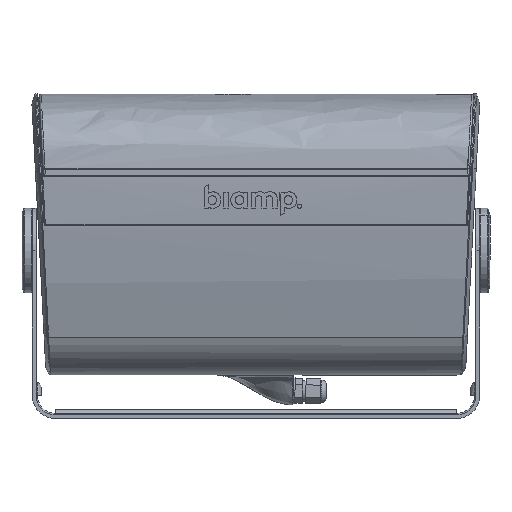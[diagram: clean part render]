
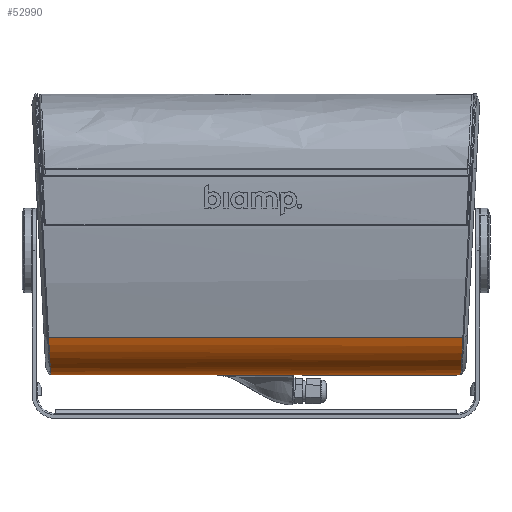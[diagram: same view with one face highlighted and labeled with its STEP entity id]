
A CAD part, left-side view. The second image highlights one B-rep face of the part: STEP entity #52990.
In plain terms, the highlighted cylindrical face has radius 42.87 mm (diameter 85.74 mm), a partial arc.
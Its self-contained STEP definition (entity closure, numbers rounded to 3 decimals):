
#1323 = CARTESIAN_POINT ( 'NONE',  ( -79.699, 160.943, -201.816 ) ) ;
#1656 = CARTESIAN_POINT ( 'NONE',  ( -72.299, 160.534, -209.691 ) ) ;
#1980 = CARTESIAN_POINT ( 'NONE',  ( -79.653, 160.94, -201.879 ) ) ;
#2307 = CARTESIAN_POINT ( 'NONE',  ( -82.472, 161.168, -197.502 ) ) ;
#2745 = CYLINDRICAL_SURFACE ( 'NONE', #14533, 42.87 ) ;
#3030 = VERTEX_POINT ( 'NONE', #34825 ) ;
#3268 = CARTESIAN_POINT ( 'NONE',  ( -56.14, 160.101, -218.083 ) ) ;
#5946 = CARTESIAN_POINT ( 'NONE',  ( -78.25, 160.84, -203.8 ) ) ;
#6628 = CARTESIAN_POINT ( 'NONE',  ( -70.194, 160.45, -211.317 ) ) ;
#6798 = CARTESIAN_POINT ( 'NONE',  ( -53.918, -160.073, -218.615 ) ) ;
#6956 = CARTESIAN_POINT ( 'NONE',  ( -84.029, 161.322, -194.53 ) ) ;
#7951 = CARTESIAN_POINT ( 'NONE',  ( -45.015, -160.031, -219.49 ) ) ;
#8269 = CARTESIAN_POINT ( 'NONE',  ( -63.396, 160.241, -215.366 ) ) ;
#9395 = VERTEX_POINT ( 'NONE', #22747 ) ;
#9525 = CARTESIAN_POINT ( 'NONE',  ( -84.176, -161.339, -194.206 ) ) ;
#10175 = DIRECTION ( 'NONE',  ( 0., -1., 0. ) ) ;
#10821 = CARTESIAN_POINT ( 'NONE',  ( -49.494, -160.038, -219.314 ) ) ;
#10978 = CARTESIAN_POINT ( 'NONE',  ( -79.64, 160.939, -201.897 ) ) ;
#11308 = CARTESIAN_POINT ( 'NONE',  ( -70.554, 160.463, -211.053 ) ) ;
#11481 = CARTESIAN_POINT ( 'NONE',  ( -78.316, -160.845, -203.71 ) ) ;
#11816 = CARTESIAN_POINT ( 'NONE',  ( -62.439, -160.215, -215.853 ) ) ;
#11966 = VECTOR ( 'NONE', #63691, 1000. ) ;
#12297 = CARTESIAN_POINT ( 'NONE',  ( -80.8, 161.025, -200.232 ) ) ;
#13283 = CARTESIAN_POINT ( 'NONE',  ( -60.348, 160.174, -216.658 ) ) ;
#13405 = DIRECTION ( 'NONE',  ( 0., 1., 0. ) ) ;
#13616 = CARTESIAN_POINT ( 'NONE',  ( -58.741, 160.144, -217.234 ) ) ;
#13943 = CARTESIAN_POINT ( 'NONE',  ( -59.578, 160.159, -216.942 ) ) ;
#14533 = AXIS2_PLACEMENT_3D ( 'NONE', #17437, #13405, #27762 ) ;
#14536 = CARTESIAN_POINT ( 'NONE',  ( -85.041, -161.447, -192.135 ) ) ;
#16500 = CARTESIAN_POINT ( 'NONE',  ( -71.973, -160.516, -210.028 ) ) ;
#16660 = CARTESIAN_POINT ( 'NONE',  ( -70.233, 160.451, -211.289 ) ) ;
#16991 = CARTESIAN_POINT ( 'NONE',  ( -80.149, 160.976, -201.188 ) ) ;
#17159 = CARTESIAN_POINT ( 'NONE',  ( -82.133, -161.132, -198.186 ) ) ;
#17319 = CARTESIAN_POINT ( 'NONE',  ( -79.764, 160.948, -201.727 ) ) ;
#17437 = CARTESIAN_POINT ( 'NONE',  ( -45.015, -175., -176.62 ) ) ;
#17641 = CARTESIAN_POINT ( 'NONE',  ( -80.367, 160.992, -200.872 ) ) ;
#21318 = CARTESIAN_POINT ( 'NONE',  ( -85.74, 161.557, -190.011 ) ) ;
#21498 = CARTESIAN_POINT ( 'NONE',  ( -80.955, -161.032, -200.096 ) ) ;
#22747 = CARTESIAN_POINT ( 'NONE',  ( -45.015, -160.031, -219.49 ) ) ;
#23825 = LINE ( 'NONE', #43457, #11966 ) ;
#23946 = CARTESIAN_POINT ( 'NONE',  ( -68.323, 160.38, -212.673 ) ) ;
#24271 = CARTESIAN_POINT ( 'NONE',  ( -53.94, 160.074, -218.611 ) ) ;
#24857 = LINE ( 'NONE', #45132, #30572 ) ;
#25899 = VERTEX_POINT ( 'NONE', #36766 ) ;
#27313 = CARTESIAN_POINT ( 'NONE',  ( -81.928, 161.118, -198.447 ) ) ;
#27762 = DIRECTION ( 'NONE',  ( 0., 0., 1. ) ) ;
#28307 = CARTESIAN_POINT ( 'NONE',  ( -59.192, 160.152, -217.079 ) ) ;
#28407 = CARTESIAN_POINT ( 'NONE',  ( -47.254, -160.03, -219.49 ) ) ;
#28959 = CARTESIAN_POINT ( 'NONE',  ( -58.354, 160.138, -217.362 ) ) ;
#30572 = VECTOR ( 'NONE', #10175, 1000. ) ;
#31648 = CARTESIAN_POINT ( 'NONE',  ( -70.367, 160.456, -211.191 ) ) ;
#31983 = CARTESIAN_POINT ( 'NONE',  ( -70.206, 160.45, -211.308 ) ) ;
#32957 = CARTESIAN_POINT ( 'NONE',  ( -45.015, 160.031, -219.49 ) ) ;
#33379 = CARTESIAN_POINT ( 'NONE',  ( -68.347, -160.38, -212.654 ) ) ;
#34179 = VERTEX_POINT ( 'NONE', #48974 ) ;
#34825 = CARTESIAN_POINT ( 'NONE',  ( -85.74, -161.557, -190.011 ) ) ;
#35761 = EDGE_CURVE ( 'NONE', #34179, #3030, #23825, .T. ) ;
#36766 = CARTESIAN_POINT ( 'NONE',  ( -45.015, 160.031, -219.49 ) ) ;
#37442 = CARTESIAN_POINT ( 'NONE',  ( -76.855, -160.756, -205.414 ) ) ;
#37598 = CARTESIAN_POINT ( 'NONE',  ( -79.667, 160.941, -201.86 ) ) ;
#37928 = CARTESIAN_POINT ( 'NONE',  ( -58.419, 160.139, -217.341 ) ) ;
#41334 = ORIENTED_EDGE ( 'NONE', *, *, #44592, .T. ) ;
#41360 = ORIENTED_EDGE ( 'NONE', *, *, #35761, .F. ) ;
#41608 = CARTESIAN_POINT ( 'NONE',  ( -73.546, 160.589, -208.636 ) ) ;
#41947 = CARTESIAN_POINT ( 'NONE',  ( -76.743, 160.75, -205.536 ) ) ;
#41963 = ORIENTED_EDGE ( 'NONE', *, *, #55940, .T. ) ;
#43047 = FACE_OUTER_BOUND ( 'NONE', #60071, .T. ) ;
#43457 = CARTESIAN_POINT ( 'NONE',  ( -85.74, -175., -190.011 ) ) ;
#43912 = CARTESIAN_POINT ( 'NONE',  ( -60.86, 160.184, -216.458 ) ) ;
#44227 = CARTESIAN_POINT ( 'NONE',  ( -62.387, 160.217, -215.828 ) ) ;
#44592 = EDGE_CURVE ( 'NONE', #34179, #25899, #44942, .T. ) ;
#44942 = B_SPLINE_CURVE_WITH_KNOTS ( 'NONE', 3,
 ( #21318, #51554, #6956, #2307, #27313, #51892, #12297, #17641, #16991, #56560, #17319, #1323, #37598, #1980, #52885, #10978, #5946, #41947, #46584, #41608, #1656, #61873, #57544, #56877, #11308, #31648, #52218, #16660, #31983, #6628, #23946, #63819, #8269, #44227, #43912, #13283, #13943, #28307, #13616, #58860, #37928, #28959, #54523, #3268, #24271, #64466, #54194, #32957 ),
 .UNSPECIFIED., .F., .F.,
 ( 4, 2, 2, 2, 1, 1, 1, 1, 1, 2, 2, 2, 2, 2, 1, 1, 1, 1, 2, 2, 2, 2, 2, 1, 1, 1, 2, 2, 2, 4 ),
 ( 0., 0.125, 0.187, 0.219, 0.234, 0.242, 0.246, 0.248, 0.249, 0.25, 0.25, 0.375, 0.437, 0.469, 0.484, 0.492, 0.496, 0.498, 0.499, 0.5, 0.625, 0.687, 0.719, 0.734, 0.742, 0.746, 0.748, 0.75, 0.875, 1. ),
 .UNSPECIFIED. ) ;
#45132 = CARTESIAN_POINT ( 'NONE',  ( -45.015, 163.5, -219.49 ) ) ;
#45660 = EDGE_CURVE ( 'NONE', #3030, #9395, #54412, .T. ) ;
#46584 = CARTESIAN_POINT ( 'NONE',  ( -74.36, 160.627, -207.892 ) ) ;
#47098 = CARTESIAN_POINT ( 'NONE',  ( -73.683, -160.592, -208.573 ) ) ;
#48974 = CARTESIAN_POINT ( 'NONE',  ( -85.74, 161.557, -190.011 ) ) ;
#51554 = CARTESIAN_POINT ( 'NONE',  ( -84.967, 161.435, -192.36 ) ) ;
#51731 = CARTESIAN_POINT ( 'NONE',  ( -66.431, -160.319, -213.825 ) ) ;
#51892 = CARTESIAN_POINT ( 'NONE',  ( -81.085, 161.048, -199.795 ) ) ;
#52218 = CARTESIAN_POINT ( 'NONE',  ( -70.273, 160.453, -211.259 ) ) ;
#52406 = CARTESIAN_POINT ( 'NONE',  ( -60.363, -160.17, -216.711 ) ) ;
#52885 = CARTESIAN_POINT ( 'NONE',  ( -79.644, 160.939, -201.892 ) ) ;
#52990 = ADVANCED_FACE ( 'NONE', ( #43047 ), #2745, .T. ) ;
#54194 = CARTESIAN_POINT ( 'NONE',  ( -47.253, 160.03, -219.49 ) ) ;
#54412 = B_SPLINE_CURVE_WITH_KNOTS ( 'NONE', 3,
 ( #60081, #14536, #9525, #17159, #21498, #11481, #37442, #47098, #16500, #33379, #51731, #11816, #52406, #61381, #6798, #10821, #28407, #7951 ),
 .UNSPECIFIED., .F., .F.,
 ( 4, 2, 2, 2, 2, 2, 2, 2, 4 ),
 ( 0., 0.125, 0.25, 0.375, 0.5, 0.625, 0.75, 0.875, 1. ),
 .UNSPECIFIED. ) ;
#54523 = CARTESIAN_POINT ( 'NONE',  ( -58.323, 160.137, -217.372 ) ) ;
#55940 = EDGE_CURVE ( 'NONE', #25899, #9395, #24857, .T. ) ;
#56560 = CARTESIAN_POINT ( 'NONE',  ( -79.892, 160.957, -201.548 ) ) ;
#56877 = CARTESIAN_POINT ( 'NONE',  ( -70.927, 160.478, -210.774 ) ) ;
#57544 = CARTESIAN_POINT ( 'NONE',  ( -71.246, 160.491, -210.529 ) ) ;
#57790 = ORIENTED_EDGE ( 'NONE', *, *, #45660, .F. ) ;
#58860 = CARTESIAN_POINT ( 'NONE',  ( -58.516, 160.141, -217.309 ) ) ;
#60071 = EDGE_LOOP ( 'NONE', ( #41334, #41963, #57790, #41360 ) ) ;
#60081 = CARTESIAN_POINT ( 'NONE',  ( -85.74, -161.557, -190.011 ) ) ;
#61381 = CARTESIAN_POINT ( 'NONE',  ( -56.103, -160.1, -218.092 ) ) ;
#61873 = CARTESIAN_POINT ( 'NONE',  ( -71.88, 160.516, -210.033 ) ) ;
#63691 = DIRECTION ( 'NONE',  ( 0., -1., 0. ) ) ;
#63819 = CARTESIAN_POINT ( 'NONE',  ( -66.384, 160.319, -213.852 ) ) ;
#64466 = CARTESIAN_POINT ( 'NONE',  ( -49.496, 160.039, -219.314 ) ) ;
